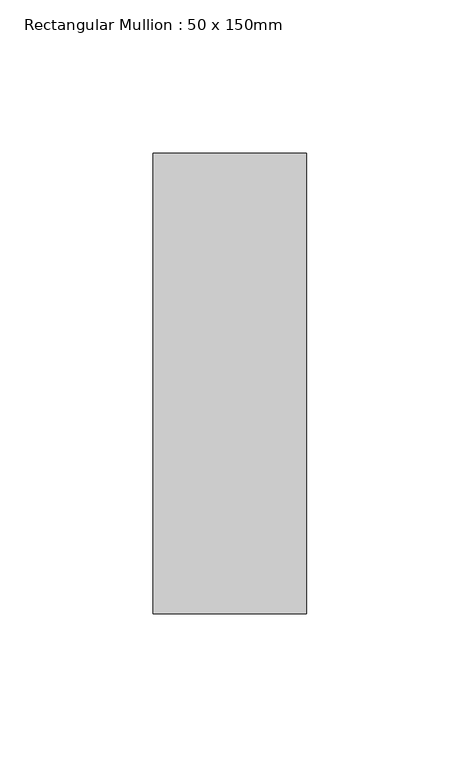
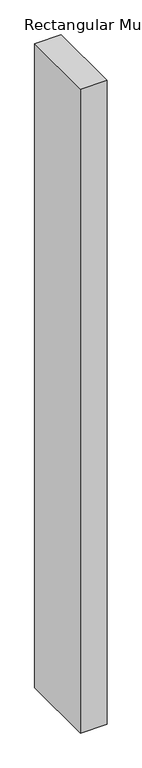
"""IFC4 building model written with IfcOpenShell, lengths in millimetres: member geometry, Rectangular Mullion : 50 x 150mm."""

from ifc_helpers import new_model, si_unit, frame, origin, place, context, project, spatial, polyline, outline, extrude, source, transform, mapped, element, save


def rectangular_mullion_50_x_150mm_87e1da99(model_context):
    return source(origin(), model_context, "Body", "SweptSolid", [
        extrude(outline(polyline([(25.0, 75.0), (25.0, -75.0), (-25.0, -75.0), (-25.0, 75.0), (25.0, 75.0)])), frame((0.0, 0.0, -1287.4999998), z_axis=(0.0, 0.0, 1.0), x_axis=(1.0, 0.0, 0.0)), (0.0, 0.0, 1.0), 1287.4999998),
    ])


if __name__ == "__main__":
    model = new_model("IFC4")
    model_context = context("Model", 3, world=origin())
    ifc_project = project(units=[si_unit("LENGTHUNIT", "METRE", prefix="MILLI")], contexts=[model_context])
    site = spatial("IfcSite", under=ifc_project)
    building = spatial("IfcBuilding", under=site)
    placement = place(None, origin())
    rectangular_mullion_50_x_150mm_shape = rectangular_mullion_50_x_150mm_87e1da99(model_context)
    element("IfcMember", 1, ObjectType="Rectangular Mullion : 50 x 150mm", at=placement, inside=building, context=model_context, shape_type="MappedRepresentation", body=[
        mapped(rectangular_mullion_50_x_150mm_shape, transform((0.0, 0.0, 0.0), x_axis=(1.0, 0.0, 0.0), y_axis=(0.0, 1.0, 0.0), z_axis=(0.0, 0.0, 1.0))),
    ])
    save(model, "model.ifc")
